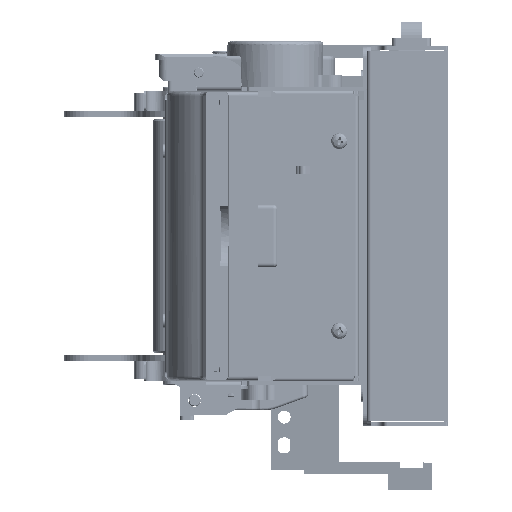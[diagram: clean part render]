
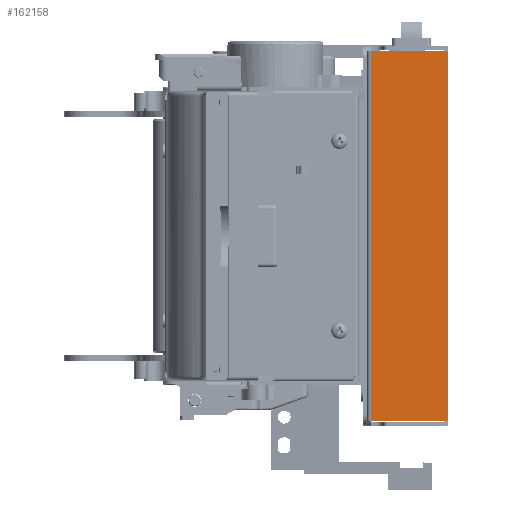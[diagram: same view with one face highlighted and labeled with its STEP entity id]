
A CAD part, left-side view. The second image highlights one B-rep face of the part: STEP entity #162158.
In plain terms, the highlighted planar face has unit normal (-1, 0, 0).
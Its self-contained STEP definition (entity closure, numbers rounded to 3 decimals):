
#81025=DIRECTION('',(0.,-1.,0.));
#81026=VECTOR('',#81025,18.5);
#81027=CARTESIAN_POINT('',(-19.5,-1.,-45.8));
#81028=LINE('',#81027,#81026);
#81046=CARTESIAN_POINT('',(-19.5,-19.5,-45.3));
#81047=DIRECTION('',(1.,0.,0.));
#81048=DIRECTION('',(0.,-1.,0.));
#81049=AXIS2_PLACEMENT_3D('',#81046,#81047,#81048);
#81054=CARTESIAN_POINT('',(-19.5,-19.5,45.3));
#81055=DIRECTION('',(1.,0.,0.));
#81056=DIRECTION('',(0.,0.,1.));
#81057=AXIS2_PLACEMENT_3D('',#81054,#81055,#81056);
#81069=DIRECTION('',(0.,0.,-1.));
#81070=VECTOR('',#81069,91.6);
#81071=CARTESIAN_POINT('',(-19.5,-1.,45.8));
#81072=LINE('',#81071,#81070);
#81076=DIRECTION('',(0.,-1.,0.));
#81077=VECTOR('',#81076,18.5);
#81078=CARTESIAN_POINT('',(-19.5,-1.,45.8));
#81079=LINE('',#81078,#81077);
#81119=DIRECTION('',(0.,0.,1.));
#81120=VECTOR('',#81119,90.6);
#81121=CARTESIAN_POINT('',(-19.5,-20.,-45.3));
#81122=LINE('',#81121,#81120);
#91775=CARTESIAN_POINT('',(-19.5,-20.,-45.3));
#91776=CARTESIAN_POINT('',(-19.5,-19.5,-45.8));
#91777=VERTEX_POINT('',#91775);
#91778=VERTEX_POINT('',#91776);
#91779=CARTESIAN_POINT('',(-19.5,-20.,45.3));
#91780=VERTEX_POINT('',#91779);
#91781=CARTESIAN_POINT('',(-19.5,-19.5,45.8));
#91782=VERTEX_POINT('',#91781);
#91783=CARTESIAN_POINT('',(-19.5,-1.,45.8));
#91784=VERTEX_POINT('',#91783);
#91785=CARTESIAN_POINT('',(-19.5,-1.,-45.8));
#91786=VERTEX_POINT('',#91785);
#162141=CARTESIAN_POINT('',(-19.5,-10.5,0.));
#162142=DIRECTION('',(1.,0.,0.));
#162143=DIRECTION('',(0.,0.,-1.));
#162144=AXIS2_PLACEMENT_3D('',#162141,#162142,#162143);
#162145=PLANE('',#162144);
#162146=ORIENTED_EDGE('',*,*,#162125,.T.);
#162147=ORIENTED_EDGE('',*,*,#162107,.F.);
#162149=ORIENTED_EDGE('',*,*,#162148,.F.);
#162151=ORIENTED_EDGE('',*,*,#162150,.T.);
#162153=ORIENTED_EDGE('',*,*,#162152,.T.);
#162155=ORIENTED_EDGE('',*,*,#162154,.F.);
#162156=EDGE_LOOP('',(#162146,#162147,#162149,#162151,#162153,#162155));
#162157=FACE_OUTER_BOUND('',#162156,.F.);
#81050=CIRCLE('',#81049,0.5);
#81058=CIRCLE('',#81057,0.5);
#162107=EDGE_CURVE('',#91786,#91778,#81028,.T.);
#162125=EDGE_CURVE('',#91777,#91778,#81050,.T.);
#162148=EDGE_CURVE('',#91784,#91786,#81072,.T.);
#162150=EDGE_CURVE('',#91784,#91782,#81079,.T.);
#162152=EDGE_CURVE('',#91782,#91780,#81058,.T.);
#162154=EDGE_CURVE('',#91777,#91780,#81122,.T.);
#162158=ADVANCED_FACE('',(#162157),#162145,.F.);
